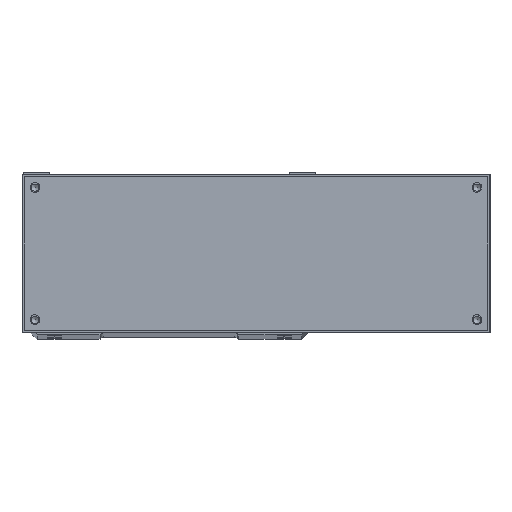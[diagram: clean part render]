
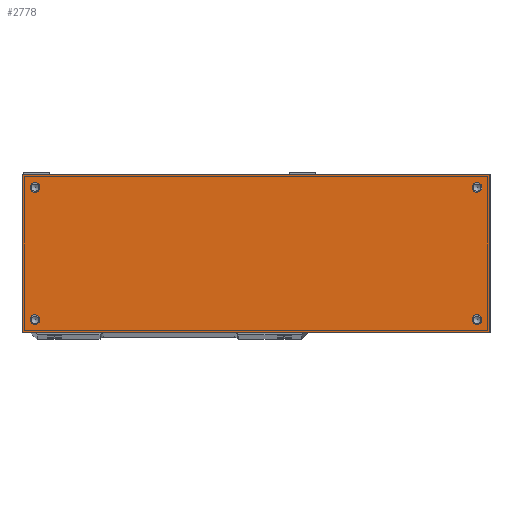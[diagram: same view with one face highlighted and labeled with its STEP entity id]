
A CAD part, top view. The second image highlights one B-rep face of the part: STEP entity #2778.
In plain terms, the highlighted planar face has unit normal (0, 0, 1).
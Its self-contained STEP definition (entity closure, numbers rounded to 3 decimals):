
#295=FACE_BOUND('',#4727,.T.);
#296=FACE_BOUND('',#4728,.T.);
#297=FACE_BOUND('',#4729,.T.);
#298=FACE_BOUND('',#4730,.T.);
#299=FACE_BOUND('',#4731,.T.);
#1405=CIRCLE('',#16789,2.25);
#1406=CIRCLE('',#16790,2.25);
#1407=CIRCLE('',#16791,2.25);
#1408=CIRCLE('',#16792,2.25);
#2778=ADVANCED_FACE('8',(#295,#296,#297,#298,#299),#3554,.F.);
#3554=PLANE('',#16793);
#4727=EDGE_LOOP('',(#7186));
#4728=EDGE_LOOP('',(#7187));
#4729=EDGE_LOOP('',(#7188));
#4730=EDGE_LOOP('',(#7189));
#4731=EDGE_LOOP('',(#7190,#7191,#7192,#7193));
#7186=ORIENTED_EDGE('',*,*,#12830,.F.);
#7187=ORIENTED_EDGE('',*,*,#12831,.F.);
#7188=ORIENTED_EDGE('',*,*,#12832,.F.);
#7189=ORIENTED_EDGE('',*,*,#12833,.F.);
#7190=ORIENTED_EDGE('',*,*,#12834,.F.);
#7191=ORIENTED_EDGE('',*,*,#12835,.F.);
#7192=ORIENTED_EDGE('',*,*,#12746,.F.);
#7193=ORIENTED_EDGE('',*,*,#12761,.F.);
#10921=VERTEX_POINT('',#25684);
#10922=VERTEX_POINT('',#25686);
#10929=VERTEX_POINT('',#25710);
#10960=VERTEX_POINT('',#26220);
#10961=VERTEX_POINT('',#26222);
#10962=VERTEX_POINT('',#26224);
#10963=VERTEX_POINT('',#26226);
#10964=VERTEX_POINT('',#26228);
#12746=EDGE_CURVE('',#10921,#10922,#14509,.T.);
#12761=EDGE_CURVE('',#10929,#10921,#14522,.T.);
#12830=EDGE_CURVE('',#10960,#10960,#1405,.T.);
#12831=EDGE_CURVE('',#10961,#10961,#1406,.T.);
#12832=EDGE_CURVE('',#10962,#10962,#1407,.T.);
#12833=EDGE_CURVE('',#10963,#10963,#1408,.T.);
#12834=EDGE_CURVE('',#10964,#10929,#14548,.T.);
#12835=EDGE_CURVE('',#10922,#10964,#14549,.T.);
#14509=LINE('',#25685,#15614);
#14522=LINE('',#25711,#15627);
#14548=LINE('',#26227,#15653);
#14549=LINE('',#26229,#15654);
#15614=VECTOR('',#19604,1.);
#15627=VECTOR('',#19627,1.);
#15653=VECTOR('',#19765,1.);
#15654=VECTOR('',#19766,1.);
#16789=AXIS2_PLACEMENT_3D('',#26219,#19757,#19758);
#16790=AXIS2_PLACEMENT_3D('',#26221,#19759,#19760);
#16791=AXIS2_PLACEMENT_3D('',#26223,#19761,#19762);
#16792=AXIS2_PLACEMENT_3D('',#26225,#19763,#19764);
#16793=AXIS2_PLACEMENT_3D('',#26230,#19767,#19768);
#19604=DIRECTION('',(0.,1.,0.));
#19627=DIRECTION('',(-1.,0.,0.));
#19757=DIRECTION('',(0.,0.,1.));
#19758=DIRECTION('',(-1.,0.,0.));
#19759=DIRECTION('',(0.,0.,1.));
#19760=DIRECTION('',(1.,0.,0.));
#19761=DIRECTION('',(0.,0.,1.));
#19762=DIRECTION('',(-1.,0.,0.));
#19763=DIRECTION('',(0.,0.,1.));
#19764=DIRECTION('',(1.,0.,0.));
#19765=DIRECTION('',(0.,-1.,0.));
#19766=DIRECTION('',(1.,0.,0.));
#19767=DIRECTION('',(0.,0.,-1.));
#19768=DIRECTION('',(1.,0.,0.));
#25684=CARTESIAN_POINT('',(-68.,0.,193.));
#25685=CARTESIAN_POINT('',(-68.,73.,193.));
#25686=CARTESIAN_POINT('',(-68.,73.,193.));
#25710=CARTESIAN_POINT('',(148.,0.,193.));
#25711=CARTESIAN_POINT('',(148.,0.,193.));
#26219=CARTESIAN_POINT('',(-62.,6.,193.));
#26220=CARTESIAN_POINT('',(-64.25,6.,193.));
#26221=CARTESIAN_POINT('',(142.,6.,193.));
#26222=CARTESIAN_POINT('',(144.25,6.,193.));
#26223=CARTESIAN_POINT('',(142.,67.,193.));
#26224=CARTESIAN_POINT('',(139.75,67.,193.));
#26225=CARTESIAN_POINT('',(-62.,67.,193.));
#26226=CARTESIAN_POINT('',(-59.75,67.,193.));
#26227=CARTESIAN_POINT('',(148.,73.,193.));
#26228=CARTESIAN_POINT('',(148.,73.,193.));
#26229=CARTESIAN_POINT('',(148.,73.,193.));
#26230=CARTESIAN_POINT('',(40.,36.5,193.));
